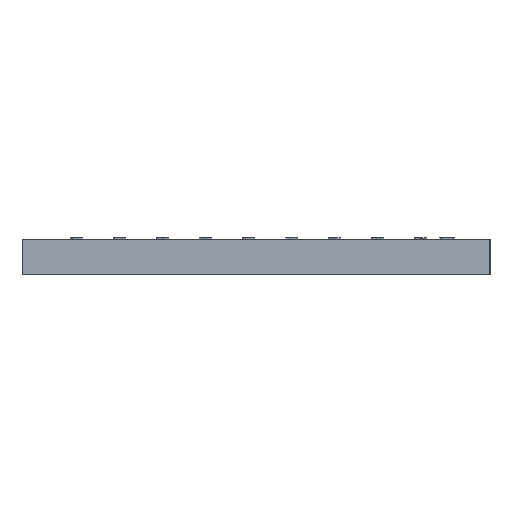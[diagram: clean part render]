
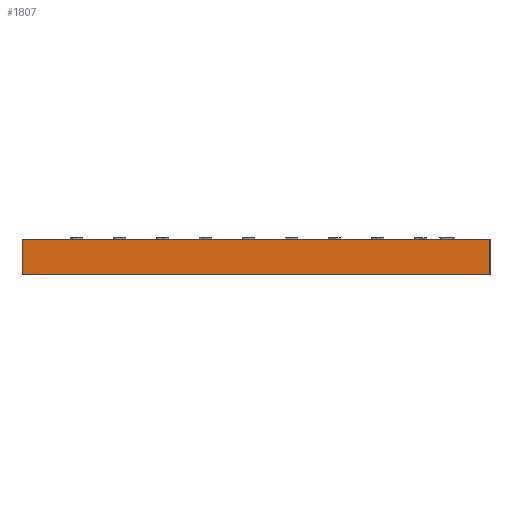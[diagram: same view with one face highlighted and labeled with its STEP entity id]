
A CAD part, left-side view. The second image highlights one B-rep face of the part: STEP entity #1807.
In plain terms, the highlighted planar face has unit normal (-1, 0, 0).
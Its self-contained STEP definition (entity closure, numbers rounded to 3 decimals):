
#1807=ADVANCED_FACE('',(#2312),#8924,.T.);
#2312=FACE_OUTER_BOUND('',#2859,.T.);
#2859=EDGE_LOOP('',(#4692,#4693,#4694,#4695));
#4692=ORIENTED_EDGE('',*,*,#6523,.T.);
#4693=ORIENTED_EDGE('',*,*,#6516,.T.);
#4694=ORIENTED_EDGE('',*,*,#6524,.F.);
#4695=ORIENTED_EDGE('',*,*,#6521,.F.);
#6516=EDGE_CURVE('',#8352,#8355,#7856,.T.);
#6521=EDGE_CURVE('',#8358,#8359,#7861,.T.);
#6523=EDGE_CURVE('',#8358,#8352,#7863,.T.);
#6524=EDGE_CURVE('',#8359,#8355,#7864,.T.);
#7856=B_SPLINE_CURVE_WITH_KNOTS('',1,(#19998,#19999),.UNSPECIFIED.,.F.,
 .F.,(2,2),(0.,10.),.UNSPECIFIED.);
#7861=B_SPLINE_CURVE_WITH_KNOTS('',1,(#20008,#20009),.UNSPECIFIED.,.F.,
 .F.,(2,2),(0.,10.),.UNSPECIFIED.);
#7863=B_SPLINE_CURVE_WITH_KNOTS('',1,(#20012,#20013),.UNSPECIFIED.,.F.,
 .F.,(2,2),(370.799,483.728),.UNSPECIFIED.);
#7864=B_SPLINE_CURVE_WITH_KNOTS('',1,(#20014,#20015),.UNSPECIFIED.,.F.,
 .F.,(2,2),(370.799,483.728),.UNSPECIFIED.);
#8352=VERTEX_POINT('',#19624);
#8355=VERTEX_POINT('',#19627);
#8358=VERTEX_POINT('',#19630);
#8359=VERTEX_POINT('',#19631);
#8924=PLANE('',#9343);
#9343=AXIS2_PLACEMENT_3D('',#19441,#10190,$);
#10190=DIRECTION('',(-1.,0.,0.));
#19441=CARTESIAN_POINT('',(589.44,113.226,0.));
#19624=CARTESIAN_POINT('',(589.44,-19.704,0.));
#19627=CARTESIAN_POINT('',(589.44,-19.704,10.));
#19630=CARTESIAN_POINT('',(589.44,113.226,0.));
#19631=CARTESIAN_POINT('',(589.44,113.226,10.));
#19998=CARTESIAN_POINT('',(589.44,-19.704,0.));
#19999=CARTESIAN_POINT('',(589.44,-19.704,10.));
#20008=CARTESIAN_POINT('',(589.44,113.226,0.));
#20009=CARTESIAN_POINT('',(589.44,113.226,10.));
#20012=CARTESIAN_POINT('',(589.44,113.226,0.));
#20013=CARTESIAN_POINT('',(589.44,-19.704,0.));
#20014=CARTESIAN_POINT('',(589.44,113.226,10.));
#20015=CARTESIAN_POINT('',(589.44,-19.704,10.));
